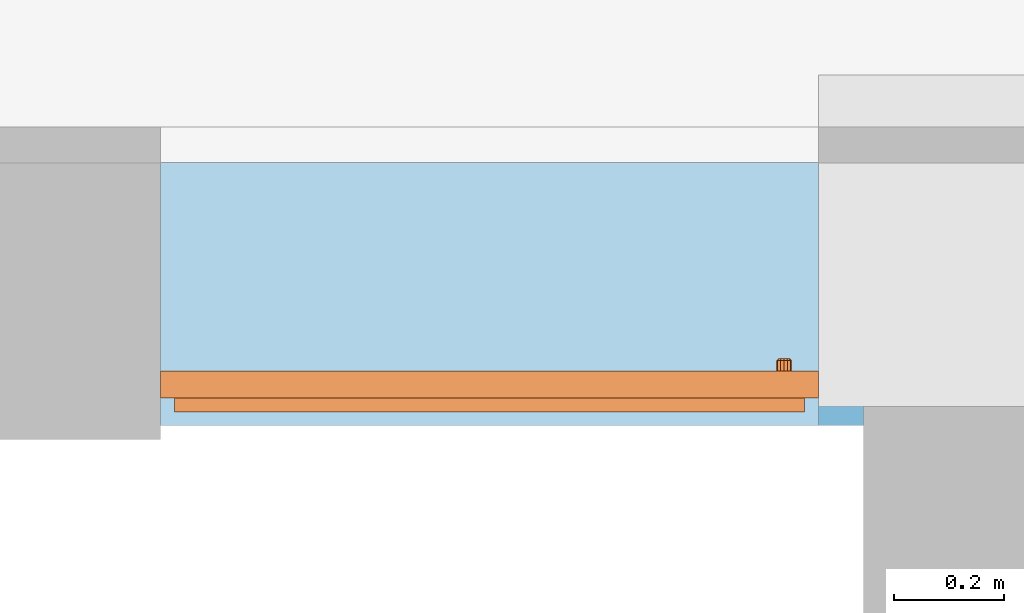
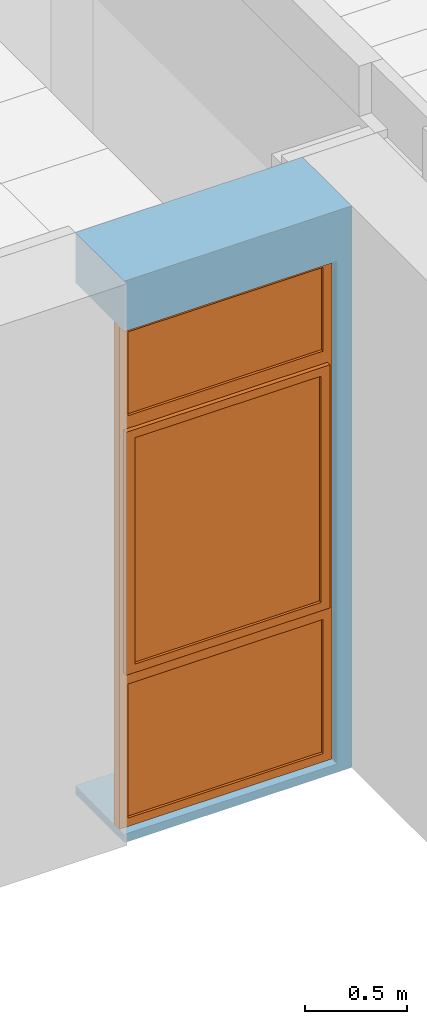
# One storey, part 50 of 60: 1 proxy, 1 opening, plus 1 element that does not belong to this part.
"""IFC2X3 building model written with IfcOpenShell, lengths in millimetres."""

from ifc_helpers import new_model, entity, si_unit, converted_unit, derived_unit, money_unit, direction, frame, origin_with_axes, origin_2d_with_axis, place, context, subcontext, project, spatial, polyline, rectangle, outline, extrude, open_shell, faceted_brep, surface_model, material, layer, layer_set, layer_usage, type_object, element, fill, save


model = new_model("IFC2X3")

# Units and contexts
model_context = context("Model", 3, precision=0.01, world=origin_with_axes(), true_north=direction((0.0, 1.0)))
body_context = subcontext(model_context, "Body", "Model", "MODEL_VIEW")
ifc_project = project(units=[si_unit("LENGTHUNIT", "METRE", prefix="MILLI"), si_unit("AREAUNIT", "SQUARE_METRE"), si_unit("VOLUMEUNIT", "CUBIC_METRE"), converted_unit("PLANEANGLEUNIT", "DEGREE", entity("IfcPlaneAngleMeasure", 0.0174532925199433), si_unit("PLANEANGLEUNIT", "RADIAN"), dimensions=[0, 0, 0, 0, 0, 0, 0]), money_unit("USD"), converted_unit("TIMEUNIT", "Year", entity("IfcTimeMeasure", 31557600.0), si_unit("TIMEUNIT", "SECOND"), dimensions=[0, 0, 1, 0, 0, 0, 0]), si_unit("MASSUNIT", "GRAM", prefix="KILO"), si_unit("THERMODYNAMICTEMPERATUREUNIT", "DEGREE_CELSIUS"), si_unit("LUMINOUSINTENSITYUNIT", "LUMEN"), si_unit("ENERGYUNIT", "JOULE", prefix="MEGA"), derived_unit("THERMALCONDUCTANCEUNIT", [(si_unit("POWERUNIT", "WATT"), 1), (si_unit("LENGTHUNIT", "METRE"), -1), (si_unit("THERMODYNAMICTEMPERATUREUNIT", "KELVIN"), -1)]), derived_unit("SPECIFICHEATCAPACITYUNIT", [(si_unit("ENERGYUNIT", "JOULE"), 1), (si_unit("MASSUNIT", "GRAM", prefix="KILO"), -1), (si_unit("THERMODYNAMICTEMPERATUREUNIT", "KELVIN"), -1)]), derived_unit("MASSDENSITYUNIT", [(si_unit("MASSUNIT", "GRAM", prefix="KILO"), 1), (si_unit("VOLUMEUNIT", "CUBIC_METRE"), -1)])], contexts=[model_context])

# Site, building, storey
site_placement = place(None, origin_with_axes())
site = spatial("IfcSite", under=ifc_project, at=site_placement, Name="Sitio", CompositionType="ELEMENT")
building_placement = place(site_placement, origin_with_axes())
building = spatial("IfcBuilding", under=site, at=building_placement, Name="Construcción", CompositionType="ELEMENT")
storey_placement = place(building_placement, frame((0.0, 0.0, 3650.0), z_axis=(0.0, 0.0, 1.0), x_axis=(1.0, 0.0, 0.0)))
storey = spatial("IfcBuildingStorey", under=building, at=storey_placement, Name="PLANTA 2ª", CompositionType="ELEMENT", Elevation=3650.0)

# Wall, opening, proxy
ifc_material_1 = material(Name="ARQ_AM246_Arrebossat_De_Guix")
ifc_layer_1 = layer(ifc_material_1, 10.0, ventilated="UNKNOWN")
ifc_material_2 = material(Name="ARQ_CE217_Gero")
ifc_layer_2 = layer(ifc_material_2, 120.0, ventilated="UNKNOWN")
ifc_material_3 = material(Name="ARQ_AI031_Aillament_Poliestireno expandido EPS")
ifc_layer_3 = layer(ifc_material_3, 120.0, ventilated="UNKNOWN")
ifc_material_4 = material(Name="ARQ_CE218_Ceramic")
ifc_layer_4 = layer(ifc_material_4, 220.0, ventilated="UNKNOWN")
ifc_layer_5 = layer(ifc_material_1, 10.0, ventilated="UNKNOWN")
ifc_layer_set = layer_set([ifc_layer_1, ifc_layer_2, ifc_layer_3, ifc_layer_4, ifc_layer_5], Name="façana pati CR2 (ampit)")
ifc_layer_usage = layer_usage(ifc_layer_set, "AXIS2", "POSITIVE", -480.0)
wall_type = type_object("IfcWallType", Name="façana pati CR2 (ampit) 480", PredefinedType="NOTDEFINED")
wall_placement = place(storey_placement, frame((-3383.431355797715, -1193.975823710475, 0.0), z_axis=(0.0, 0.0, 1.0), x_axis=(1.0, 0.0, 0.0)))
wall = element("IfcWallStandardCase", 1, at=wall_placement, inside=storey, type_object=wall_type, material=ifc_layer_usage, Name="MS-200", context=body_context, shape_type="SweptSolid", body=[
    extrude(outline(polyline([(0.0, -480.0), (1282.322350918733, -480.0), (1282.322350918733, 0.0), (0.0, 0.0), (0.0, -480.0)])), origin_with_axes(), (0.0, 0.0, 1.0), 3350.0),
])
opening_placement = place(wall_placement, frame((599.9999999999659, 0.0, 49.99999999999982), z_axis=(0.0, 0.0, 1.0), x_axis=(1.0, 0.0, 0.0)))
opening = element("IfcOpeningElement", 2, at=opening_placement, cuts=wall, Name="F01", context=body_context, shape_type="SweptSolid", body=[
    extrude(rectangle(XDim=1199.999999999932, YDim=3000.0, at=origin_2d_with_axis()), frame((0.0, -429.9999999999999, 1500.0), z_axis=(0.0, -1.0, 0.0), x_axis=(-1.0, 0.0, 0.0)), (0.0, 0.0, -1.0), 909.9999999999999),
    extrude(rectangle(XDim=1199.999999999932, YDim=3000.0, at=origin_2d_with_axis()), frame((0.0, -429.9999999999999, 1500.0), z_axis=(0.0, 1.0, 0.0), x_axis=(-1.0, 0.0, 0.0)), (0.0, 0.0, -1.0), 530.0),
])
building_element_proxy_type = type_object("IfcBuildingElementProxyType", Name="Ventana Vertical Multi-Faja 27", PredefinedType="NOTDEFINED")
proxy_placement = place(opening_placement, frame((599.9999999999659, 0.0, 0.0), z_axis=(0.0, 0.0, 1.0), x_axis=(-1.0, 0.0, 0.0)))
proxy = element("IfcBuildingElementProxy", 3, at=proxy_placement, inside=storey, type_object=building_element_proxy_type, Name="F01", context=body_context, shape_type="SurfaceModel", body=[
    faceted_brep([(24.99999999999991, 429.9999999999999, 925.0000000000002), (49.99999999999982, 429.9999999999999, 925.0000000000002), (49.99999999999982, 429.9999999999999, 850.0000000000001), (49.99999999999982, 429.9999999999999, 50.00000000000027), (0.0, 429.9999999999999, 50.00000000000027), (0.0, 429.9999999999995, 2950.0), (49.99999999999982, 429.9999999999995, 2950.0), (49.99999999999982, 429.9999999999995, 2450.0), (49.99999999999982, 429.9999999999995, 2375.0), (24.99999999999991, 429.9999999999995, 2375.0), (24.99999999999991, 404.9999999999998, 925.0000000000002), (49.99999999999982, 404.9999999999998, 925.0000000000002), (49.99999999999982, 404.9999999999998, 949.9999999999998), (49.99999999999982, 379.9999999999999, 949.9999999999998), (49.99999999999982, 379.9999999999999, 850.0000000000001), (49.99999999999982, 379.9999999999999, 50.00000000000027), (0.0, 379.9999999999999, 50.00000000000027), (0.0, 379.9999999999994, 2950.0), (49.99999999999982, 379.9999999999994, 2950.0), (49.99999999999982, 379.9999999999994, 2450.0), (49.99999999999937, 404.9999999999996, 2375.0), (49.99999999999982, 379.9999999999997, 2350.0), (49.99999999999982, 404.9999999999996, 2350.0), (24.99999999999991, 404.9999999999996, 2375.0)], [[[0, 1, 2, 3, 4, 5, 6, 7, 8, 9]], [[0, 10, 11, 1]], [[11, 12, 13, 14, 2, 1]], [[3, 2, 14, 15]], [[4, 3, 15, 16]], [[5, 4, 16, 17]], [[6, 5, 17, 18]], [[7, 6, 18, 19]], [[20, 8, 7, 19, 21, 22]], [[20, 23, 9, 8]], [[9, 23, 10, 0]], [[22, 12, 11, 10, 23, 20]], [[22, 21, 13, 12]], [[17, 16, 15, 14, 13, 21, 19, 18]]]),
    faceted_brep([(1174.999999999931, 429.9999999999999, 925.0000000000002), (1174.999999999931, 429.9999999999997, 2375.0), (1149.999999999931, 429.9999999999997, 2375.0), (1149.999999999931, 429.9999999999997, 2450.0), (1149.999999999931, 429.9999999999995, 2950.0), (1199.999999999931, 429.9999999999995, 2950.0), (1199.999999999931, 430.0000000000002, 50.00000000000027), (1149.999999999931, 430.0000000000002, 50.00000000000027), (1149.999999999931, 429.9999999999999, 850.0000000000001), (1149.999999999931, 429.9999999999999, 925.0000000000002), (1174.999999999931, 405.0, 925.0000000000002), (1174.999999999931, 404.9999999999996, 2375.0), (1149.999999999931, 404.9999999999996, 2375.0), (1149.999999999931, 404.9999999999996, 2350.0), (1149.999999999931, 379.9999999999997, 2350.0), (1149.999999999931, 379.9999999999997, 2450.0), (1149.999999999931, 379.9999999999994, 2950.0), (1199.999999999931, 379.9999999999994, 2950.0), (1199.999999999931, 380.0000000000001, 50.00000000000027), (1149.999999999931, 380.0000000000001, 50.00000000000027), (1149.999999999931, 379.9999999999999, 850.0000000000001), (1149.999999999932, 405.0, 925.0000000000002), (1149.999999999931, 379.9999999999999, 949.9999999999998), (1149.999999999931, 405.0, 949.9999999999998)], [[[0, 1, 2, 3, 4, 5, 6, 7, 8, 9]], [[0, 10, 11, 1]], [[1, 11, 12, 2]], [[12, 13, 14, 15, 3, 2]], [[4, 3, 15, 16]], [[5, 4, 16, 17]], [[6, 5, 17, 18]], [[7, 6, 18, 19]], [[8, 7, 19, 20]], [[21, 9, 8, 20, 22, 23]], [[9, 21, 10, 0]], [[12, 11, 10, 21, 23, 13]], [[23, 22, 14, 13]], [[14, 22, 20, 19, 18, 17, 16, 15]]]),
    faceted_brep([(49.99999999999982, 404.9999999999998, 949.9999999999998), (49.99999999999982, 379.9999999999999, 949.9999999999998), (1149.999999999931, 379.9999999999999, 949.9999999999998), (1149.999999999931, 405.0, 949.9999999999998), (49.99999999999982, 404.9999999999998, 925.0000000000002), (49.99999999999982, 429.9999999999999, 925.0000000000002), (49.99999999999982, 429.9999999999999, 850.0000000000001), (49.99999999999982, 379.9999999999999, 850.0000000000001), (1149.999999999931, 379.9999999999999, 850.0000000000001), (1149.999999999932, 405.0, 925.0000000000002), (1149.999999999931, 429.9999999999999, 850.0000000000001), (1149.999999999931, 429.9999999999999, 925.0000000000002)], [[[0, 1, 2, 3]], [[4, 5, 6, 7, 1, 0]], [[1, 7, 8, 2]], [[9, 3, 2, 8, 10, 11]], [[9, 4, 0, 3]], [[5, 4, 9, 11]], [[11, 10, 6, 5]], [[6, 10, 8, 7]]]),
    faceted_brep([(49.99999999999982, 429.9999999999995, 2375.0), (49.99999999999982, 429.9999999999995, 2450.0), (1149.999999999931, 429.9999999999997, 2450.0), (1149.999999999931, 429.9999999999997, 2375.0), (49.99999999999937, 404.9999999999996, 2375.0), (49.99999999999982, 404.9999999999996, 2350.0), (49.99999999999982, 379.9999999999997, 2350.0), (49.99999999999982, 379.9999999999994, 2450.0), (1149.999999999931, 379.9999999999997, 2450.0), (1149.999999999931, 404.9999999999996, 2375.0), (1149.999999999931, 379.9999999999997, 2350.0), (1149.999999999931, 404.9999999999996, 2350.0)], [[[0, 1, 2, 3]], [[4, 5, 6, 7, 1, 0]], [[2, 1, 7, 8]], [[9, 3, 2, 8, 10, 11]], [[9, 4, 0, 3]], [[11, 5, 4, 9]], [[11, 10, 6, 5]], [[7, 6, 10, 8]]]),
    faceted_brep([(1149.999999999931, 379.9999999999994, 2950.0), (1149.999999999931, 429.9999999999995, 2950.0), (1199.999999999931, 429.9999999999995, 2950.0), (1199.999999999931, 379.9999999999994, 2950.0), (49.99999999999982, 379.9999999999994, 2950.0), (49.99999999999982, 429.9999999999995, 2950.0), (0.0, 429.9999999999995, 2950.0), (0.0, 429.9999999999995, 3000.0), (1199.999999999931, 429.9999999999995, 3000.0), (1199.999999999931, 379.9999999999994, 3000.0), (0.0, 379.9999999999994, 3000.0), (0.0, 379.9999999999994, 2950.0)], [[[0, 1, 2, 3]], [[4, 5, 1, 0]], [[1, 5, 6, 7, 8, 2]], [[3, 2, 8, 9]], [[0, 3, 9, 10, 11, 4]], [[11, 6, 5, 4]], [[10, 7, 6, 11]], [[9, 8, 7, 10]]]),
    faceted_brep([(49.99999999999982, 379.9999999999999, 49.99999999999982), (49.99999999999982, 429.9999999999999, 49.99999999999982), (0.0, 429.9999999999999, 49.99999999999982), (0.0, 379.9999999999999, 49.99999999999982), (1149.999999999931, 380.0000000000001, 49.99999999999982), (1149.999999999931, 430.0000000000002, 49.99999999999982), (1199.999999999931, 430.0000000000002, 49.99999999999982), (1199.999999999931, 430.0000000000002, 0.0), (0.0, 429.9999999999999, 0.0), (0.0, 380.0000000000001, 0.0), (1199.999999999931, 380.0000000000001, 0.0), (1199.999999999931, 380.0000000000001, 49.99999999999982)], [[[0, 1, 2, 3]], [[4, 5, 1, 0]], [[1, 5, 6, 7, 8, 2]], [[3, 2, 8, 9]], [[0, 3, 9, 10, 11, 4]], [[11, 6, 5, 4]], [[10, 7, 6, 11]], [[9, 8, 7, 10]]]),
    surface_model("IfcShellBasedSurfaceModel", [(49.99999999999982, 395.0, 49.99999999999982), (1149.999999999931, 395.0, 49.99999999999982), (1149.999999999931, 395.0, 850.0000000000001), (49.99999999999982, 394.9999999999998, 850.0000000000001)], [open_shell([[[0, 1, 2, 3]]])]),
    surface_model("IfcShellBasedSurfaceModel", [(49.99999999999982, 415.0000000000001, 49.99999999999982), (49.99999999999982, 414.9999999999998, 850.0000000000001), (1149.999999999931, 415.0000000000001, 850.0000000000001), (1149.999999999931, 415.0000000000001, 49.99999999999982)], [open_shell([[[0, 1, 2, 3]]])]),
    faceted_brep([(78.49999999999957, 404.9999999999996, 1677.0), (77.16025403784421, 404.9999999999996, 1682.0), (77.16025403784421, 392.9999999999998, 1682.0), (78.49999999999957, 392.9999999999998, 1677.0), (78.49999999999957, 404.9999999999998, 1623.0), (77.16025403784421, 404.9999999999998, 1618.0), (73.49999999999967, 404.9999999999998, 1614.339745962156), (68.49999999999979, 404.9999999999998, 1613.0), (56.49999999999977, 404.9999999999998, 1613.0), (51.49999999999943, 404.9999999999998, 1614.339745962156), (47.83974596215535, 404.9999999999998, 1618.0), (46.49999999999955, 404.9999999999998, 1623.0), (46.49999999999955, 404.9999999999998, 1677.0), (47.83974596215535, 404.9999999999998, 1682.0), (51.49999999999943, 404.9999999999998, 1685.660254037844), (56.49999999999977, 404.9999999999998, 1687.0), (68.49999999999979, 404.9999999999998, 1687.0), (73.49999999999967, 404.9999999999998, 1685.660254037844), (73.49999999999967, 392.9999999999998, 1685.660254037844), (68.49999999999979, 392.9999999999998, 1687.0), (56.49999999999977, 392.9999999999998, 1687.0), (51.49999999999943, 392.9999999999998, 1685.660254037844), (47.83974596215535, 392.9999999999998, 1682.0), (46.49999999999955, 392.9999999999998, 1677.0), (46.49999999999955, 392.9999999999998, 1623.0), (47.83974596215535, 392.9999999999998, 1618.0), (51.49999999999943, 392.9999999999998, 1614.339745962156), (56.49999999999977, 392.9999999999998, 1613.0), (68.49999999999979, 392.9999999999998, 1613.0), (73.49999999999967, 392.9999999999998, 1614.339745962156), (77.16025403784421, 392.9999999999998, 1618.0), (78.49999999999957, 392.9999999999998, 1623.0)], [[[0, 1, 2, 3]], [[0, 4, 5, 6, 7, 8, 9, 10, 11, 12, 13, 14, 15, 16, 17, 1]], [[1, 17, 18, 2]], [[3, 2, 18, 19, 20, 21, 22, 23, 24, 25, 26, 27, 28, 29, 30, 31]], [[4, 0, 3, 31]], [[5, 4, 31, 30]], [[6, 5, 30, 29]], [[7, 6, 29, 28]], [[8, 7, 28, 27]], [[9, 8, 27, 26]], [[10, 9, 26, 25]], [[11, 10, 25, 24]], [[12, 11, 24, 23]], [[13, 12, 23, 22]], [[14, 13, 22, 21]], [[15, 14, 21, 20]], [[16, 15, 20, 19]], [[17, 16, 19, 18]]]),
    faceted_brep([(62.49999999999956, 392.9999999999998, 1663.5), (55.74999999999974, 392.9999999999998, 1661.69134295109), (55.74999999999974, 368.9999999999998, 1661.69134295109), (62.49999999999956, 368.9999999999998, 1663.5), (69.24999999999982, 392.9999999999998, 1661.69134295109), (74.19134295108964, 392.9999999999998, 1656.75), (75.99999999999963, 392.9999999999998, 1650.0), (74.19134295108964, 392.9999999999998, 1643.25), (69.24999999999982, 392.9999999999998, 1638.30865704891), (62.49999999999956, 392.9999999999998, 1636.499999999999), (55.74999999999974, 392.9999999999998, 1638.30865704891), (50.80865704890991, 392.9999999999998, 1643.25), (48.99999999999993, 392.9999999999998, 1650.0), (50.80865704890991, 392.9999999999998, 1656.75), (50.80865704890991, 368.9999999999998, 1656.75), (48.99999999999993, 368.9999999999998, 1650.0), (50.80865704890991, 368.9999999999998, 1643.25), (55.74999999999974, 368.9999999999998, 1638.30865704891), (62.49999999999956, 368.9999999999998, 1636.499999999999), (69.24999999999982, 368.9999999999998, 1638.30865704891), (74.19134295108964, 368.9999999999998, 1643.25), (75.99999999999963, 368.9999999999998, 1650.0), (74.19134295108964, 368.9999999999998, 1656.75), (69.24999999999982, 368.9999999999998, 1661.69134295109)], [[[0, 1, 2, 3]], [[0, 4, 5, 6, 7, 8, 9, 10, 11, 12, 13, 1]], [[1, 13, 14, 2]], [[3, 2, 14, 15, 16, 17, 18, 19, 20, 21, 22, 23]], [[4, 0, 3, 23]], [[5, 4, 23, 22]], [[6, 5, 22, 21]], [[7, 6, 21, 20]], [[8, 7, 20, 19]], [[9, 8, 19, 18]], [[10, 9, 18, 17]], [[11, 10, 17, 16]], [[12, 11, 16, 15]], [[13, 12, 15, 14]]]),
    faceted_brep([(73.9999999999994, 368.9999999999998, 1543.0), (62.49999999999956, 368.9999999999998, 1540.0), (50.99999999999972, 368.9999999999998, 1543.0), (48.99999999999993, 368.9999999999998, 1546.0), (48.99999999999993, 368.9999999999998, 1650.0), (50.80865704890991, 368.9999999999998, 1656.75), (55.74999999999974, 368.9999999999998, 1661.69134295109), (62.49999999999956, 368.9999999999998, 1663.5), (69.24999999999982, 368.9999999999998, 1661.69134295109), (74.19134295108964, 368.9999999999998, 1656.75), (75.99999999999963, 368.9999999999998, 1650.0), (75.99999999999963, 368.9999999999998, 1546.0), (74.0000000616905, 360.9999999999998, 1543.000000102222), (62.50000003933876, 360.9999999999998, 1539.999999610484), (51.00000001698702, 360.9999999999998, 1543.000000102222), (48.99999968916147, 360.9999999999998, 1545.999999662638), (48.99999968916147, 360.9999999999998, 1649.99999994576), (50.80865700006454, 360.9999999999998, 1656.749999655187), (55.7500003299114, 360.9999999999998, 1661.691342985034), (62.50000003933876, 360.9999999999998, 1663.500000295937), (69.24999974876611, 360.9999999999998, 1661.691342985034), (74.19134307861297, 360.9999999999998, 1656.749999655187), (76.00000038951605, 360.9999999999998, 1649.99999994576), (76.00000038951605, 360.9999999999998, 1545.999999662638), (72.13746253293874, 358.000000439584, 1545.61451963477), (62.50000003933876, 358.000000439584, 1543.100398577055), (52.86253754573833, 358.000000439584, 1545.61451963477), (51.99999924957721, 358.000000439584, 1546.908326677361), (51.99999924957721, 358.000000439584, 1649.605042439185), (53.49838296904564, 358.000000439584, 1655.197085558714), (57.30291442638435, 358.000000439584, 1659.001617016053), (62.50000003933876, 358.000000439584, 1660.394172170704), (67.69708565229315, 358.000000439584, 1659.001617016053), (71.50161710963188, 358.000000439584, 1655.197085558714), (73.0000008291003, 358.000000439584, 1649.605042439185), (73.0000008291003, 358.000000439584, 1546.908326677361)], [[[0, 1, 2, 3, 4, 5, 6, 7, 8, 9, 10, 11]], [[1, 0, 12, 13]], [[2, 1, 13, 14]], [[3, 2, 14, 15]], [[4, 3, 15, 16]], [[5, 4, 16, 17]], [[6, 5, 17, 18]], [[7, 6, 18, 19]], [[8, 7, 19, 20]], [[9, 8, 20, 21]], [[10, 9, 21, 22]], [[11, 10, 22, 23]], [[0, 11, 23, 12]], [[13, 12, 24, 25]], [[14, 13, 25, 26]], [[15, 14, 26, 27]], [[16, 15, 27, 28]], [[17, 16, 28, 29]], [[18, 17, 29, 30]], [[19, 18, 30, 31]], [[20, 19, 31, 32]], [[21, 20, 32, 33]], [[22, 21, 33, 34]], [[23, 22, 34, 35]], [[12, 23, 35, 24]], [[26, 25, 24, 35, 34, 33, 32, 31, 30, 29, 28, 27]]]),
    faceted_brep([(74.99999999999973, 404.9999999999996, 2325.0), (74.99999999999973, 454.9999999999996, 2325.0), (24.99999999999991, 454.9999999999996, 2325.0), (24.99999999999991, 404.9999999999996, 2325.0), (74.99999999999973, 404.9999999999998, 975.0000000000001), (74.99999999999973, 454.9999999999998, 975.0000000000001), (24.99999999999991, 454.9999999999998, 975.0000000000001), (24.99999999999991, 404.9999999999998, 975.0000000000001)], [[[0, 1, 2, 3]], [[4, 5, 1, 0]], [[1, 5, 6, 2]], [[3, 2, 6, 7]], [[0, 3, 7, 4]], [[7, 6, 5, 4]]]),
    faceted_brep([(1124.999999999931, 404.9999999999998, 975.0000000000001), (1124.999999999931, 454.9999999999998, 975.0000000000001), (1174.999999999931, 454.9999999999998, 975.0000000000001), (1174.999999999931, 404.9999999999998, 975.0000000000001), (1124.999999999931, 404.9999999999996, 2325.0), (1124.999999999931, 454.9999999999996, 2325.0), (1174.999999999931, 454.9999999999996, 2325.0), (1174.999999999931, 404.9999999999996, 2325.0)], [[[0, 1, 2, 3]], [[4, 5, 1, 0]], [[1, 5, 6, 2]], [[3, 2, 6, 7]], [[0, 3, 7, 4]], [[7, 6, 5, 4]]]),
    faceted_brep([(1174.999999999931, 404.9999999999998, 925.0000000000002), (1174.999999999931, 454.9999999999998, 925.0000000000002), (1174.999999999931, 454.9999999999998, 975.0000000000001), (1174.999999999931, 404.9999999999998, 975.0000000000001), (24.99999999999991, 404.9999999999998, 925.0000000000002), (24.99999999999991, 454.9999999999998, 925.0000000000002), (24.99999999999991, 454.9999999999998, 975.0000000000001), (74.99999999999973, 454.9999999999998, 975.0000000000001), (1124.999999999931, 454.9999999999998, 975.0000000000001), (1124.999999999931, 404.9999999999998, 975.0000000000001), (74.99999999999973, 404.9999999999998, 975.0000000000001), (24.99999999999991, 404.9999999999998, 975.0000000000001)], [[[0, 1, 2, 3]], [[4, 5, 1, 0]], [[1, 5, 6, 7, 8, 2]], [[3, 2, 8, 9]], [[0, 3, 9, 10, 11, 4]], [[11, 6, 5, 4]], [[10, 7, 6, 11]], [[9, 8, 7, 10]]]),
    faceted_brep([(24.99999999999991, 404.9999999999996, 2375.0), (24.99999999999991, 454.9999999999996, 2375.0), (24.99999999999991, 454.9999999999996, 2325.0), (24.99999999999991, 404.9999999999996, 2325.0), (1174.999999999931, 404.9999999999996, 2375.0), (1174.999999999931, 454.9999999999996, 2375.0), (1174.999999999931, 454.9999999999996, 2325.0), (1124.999999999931, 454.9999999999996, 2325.0), (74.99999999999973, 454.9999999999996, 2325.0), (74.99999999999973, 404.9999999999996, 2325.0), (1124.999999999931, 404.9999999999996, 2325.0), (1174.999999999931, 404.9999999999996, 2325.0)], [[[0, 1, 2, 3]], [[4, 5, 1, 0]], [[1, 5, 6, 7, 8, 2]], [[3, 2, 8, 9]], [[0, 3, 9, 10, 11, 4]], [[11, 6, 5, 4]], [[10, 7, 6, 11]], [[9, 8, 7, 10]]]),
    surface_model("IfcShellBasedSurfaceModel", [(74.99999999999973, 419.9999999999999, 975.0000000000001), (1124.999999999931, 419.9999999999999, 975.0000000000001), (1124.999999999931, 419.9999999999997, 2325.0), (74.99999999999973, 419.9999999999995, 2325.0)], [open_shell([[[0, 1, 2, 3]]])]),
    surface_model("IfcShellBasedSurfaceModel", [(74.99999999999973, 439.9999999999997, 975.0000000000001), (74.99999999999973, 439.9999999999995, 2325.0), (1124.999999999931, 439.9999999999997, 2325.0), (1124.999999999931, 439.9999999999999, 975.0000000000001)], [open_shell([[[0, 1, 2, 3]]])]),
    surface_model("IfcShellBasedSurfaceModel", [(49.99999999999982, 394.9999999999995, 2450.0), (1149.999999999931, 394.9999999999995, 2450.0), (1149.999999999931, 394.9999999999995, 2950.0), (49.99999999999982, 394.9999999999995, 2950.0)], [open_shell([[[0, 1, 2, 3]]])]),
    surface_model("IfcShellBasedSurfaceModel", [(49.99999999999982, 414.9999999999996, 2450.0), (49.99999999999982, 414.9999999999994, 2950.0), (1149.999999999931, 414.9999999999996, 2950.0), (1149.999999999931, 414.9999999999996, 2450.0)], [open_shell([[[0, 1, 2, 3]]])]),
])
fill(opening, proxy)

save(model, "model.ifc")
